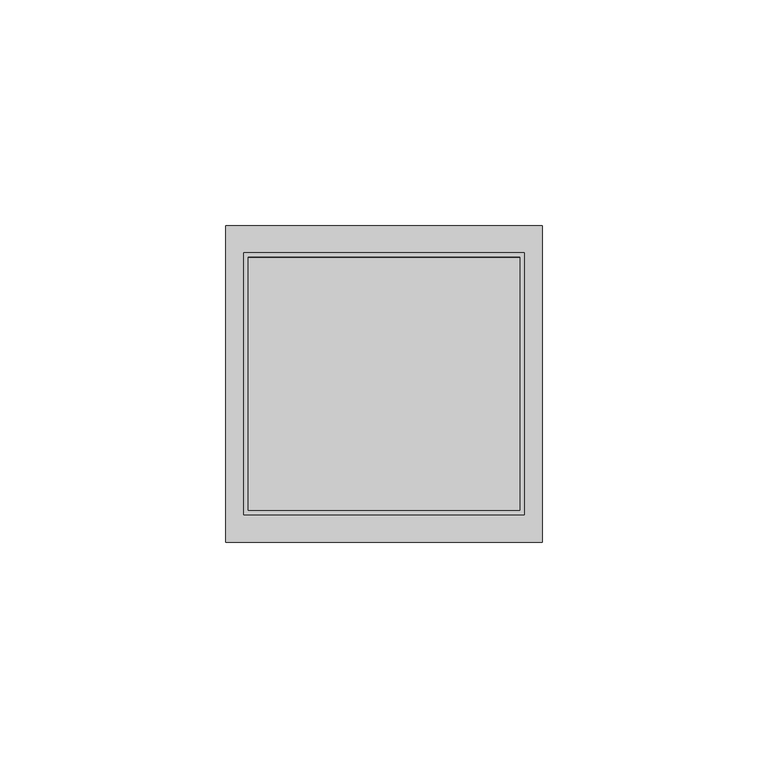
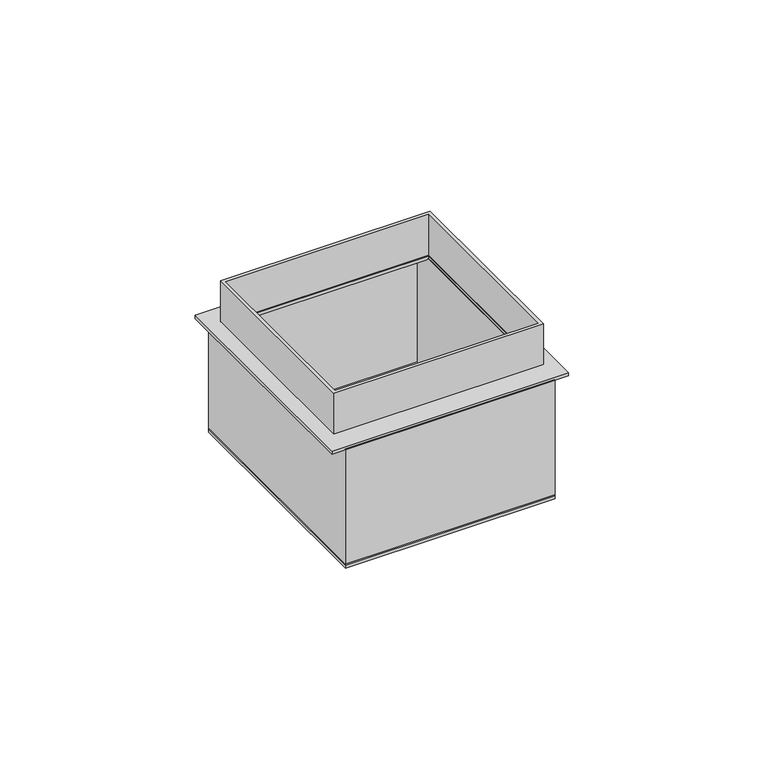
"""IFC4 building model written with IfcOpenShell, lengths in millimetres: proxy geometry, 00-Scatola da incasso : Scatola 2 moduli."""

from ifc_helpers import new_model, si_unit, frame, origin, place, context, project, spatial, polyline, outline, extrude, source, transform, mapped, element, save


def electrical_fixtures_eec747b0(model_context):
    return source(origin(), model_context, "Body", "SweptSolid", [
        extrude(outline(polyline([(31.0, -35.0), (-31.0, -35.0), (-31.0, 35.0), (31.0, 35.0), (31.0, -35.0)])), frame((0.0, 0.0, -51.0), z_axis=(0.0, 0.0, 1.0), x_axis=(1.0, 0.0, 0.0)), (0.0, 0.0, 1.0), 1.0),
        extrude(outline(polyline([(31.0, -35.0), (-31.0, -35.0), (-31.0, 35.0), (31.0, 35.0), (31.0, -35.0)]), holes=[polyline([(-30.0, 34.0), (-30.0, -34.0), (30.0, -34.0), (30.0, 34.0), (-30.0, 34.0)])]), frame((0.0, 0.0, -50.0), z_axis=(0.0, 0.0, 1.0), x_axis=(1.0, 0.0, 0.0)), (0.0, 0.0, 1.0), 36.0),
        extrude(outline(polyline([(35.0, -35.0), (-35.0, -35.0), (-35.0, 35.0), (35.0, 35.0), (35.0, -35.0)]), holes=[polyline([(30.0, -28.0), (30.0, 28.0), (-30.0, 28.0), (-30.0, -28.0), (30.0, -28.0)])]), frame((0.0, 0.0, -14.0), z_axis=(0.0, 0.0, 1.0), x_axis=(1.0, 0.0, 0.0)), (0.0, 0.0, 1.0), 1.0),
        extrude(outline(polyline([(31.0, -29.0), (-31.0, -29.0), (-31.0, 29.0), (31.0, 29.0), (31.0, -29.0)]), holes=[polyline([(-30.0, 28.0), (-30.0, -28.0), (30.0, -28.0), (30.0, 28.0), (-30.0, 28.0)])]), frame((0.0, 0.0, -13.0), z_axis=(0.0, 0.0, 1.0), x_axis=(1.0, 0.0, 0.0)), (0.0, 0.0, 1.0), 13.0),
    ])


if __name__ == "__main__":
    model = new_model("IFC4")
    model_context = context("Model", 3, world=origin())
    ifc_project = project(units=[si_unit("LENGTHUNIT", "METRE", prefix="MILLI")], contexts=[model_context])
    site = spatial("IfcSite", under=ifc_project)
    building = spatial("IfcBuilding", under=site)
    placement = place(None, origin())
    electrical_fixtures_shape = electrical_fixtures_eec747b0(model_context)
    element("IfcBuildingElementProxy", 1, Name="00-Scatola da incasso : Scatola 2 moduli", ObjectType="00-Scatola da incasso : Scatola 2 moduli", at=placement, inside=building, context=model_context, shape_type="MappedRepresentation", body=[
        mapped(electrical_fixtures_shape, transform((0.0, 0.0, 0.0), x_axis=(1.0, 0.0, 0.0), y_axis=(0.0, 1.0, 0.0), z_axis=(0.0, 0.0, 1.0))),
    ])
    save(model, "model.ifc")
